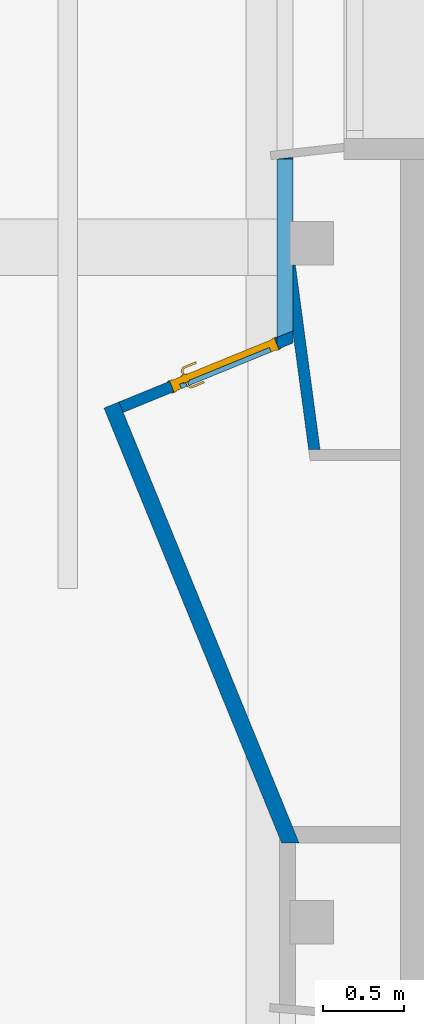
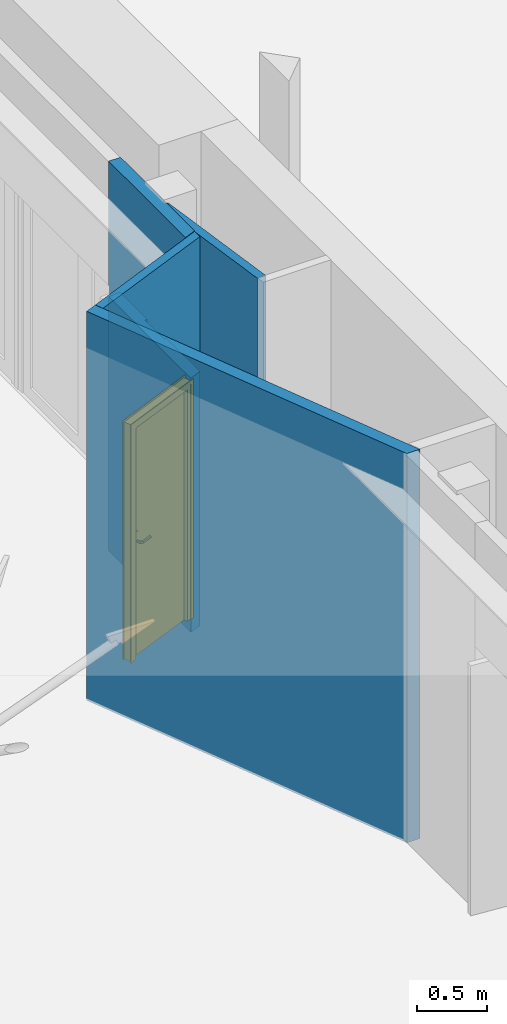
# One storey, part 36 of 65: 5 walls, 1 door, 2 openings.
"""IFC4 building model written with IfcOpenShell, lengths in metres."""

from ifc_helpers import new_model, entity, si_unit, converted_unit, derived_unit, direction, frame, origin, place, context, subcontext, project, spatial, indexed_curve, outline, extrude, polygons, source, transform, mapped, material, material_list, layer, layer_set, constituent, constituent_set, type_object, type_shapes, element, fill, save


model = new_model("IFC4")

# Units and contexts
model_context = context("Model", 3, precision=1e-05, world=origin(), true_north=direction((6.12303176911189e-17, 1.0)))
body_context = subcontext(model_context, "Body", "Model", "MODEL_VIEW")
ifc_project = project(units=[si_unit("LENGTHUNIT", "METRE"), si_unit("AREAUNIT", "SQUARE_METRE"), si_unit("VOLUMEUNIT", "CUBIC_METRE"), converted_unit("PLANEANGLEUNIT", "DEGREE", entity("IfcRatioMeasure", 0.0174532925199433), si_unit("PLANEANGLEUNIT", "RADIAN"), dimensions=[0, 0, 0, 0, 0, 0, 0]), si_unit("MASSUNIT", "GRAM", prefix="KILO"), derived_unit("MASSDENSITYUNIT", [(si_unit("MASSUNIT", "GRAM", prefix="KILO"), 1), (si_unit("LENGTHUNIT", "METRE"), -3)]), derived_unit("MOMENTOFINERTIAUNIT", [(si_unit("LENGTHUNIT", "METRE"), 4)]), si_unit("TIMEUNIT", "SECOND"), si_unit("FREQUENCYUNIT", "HERTZ"), si_unit("THERMODYNAMICTEMPERATUREUNIT", "DEGREE_CELSIUS"), derived_unit("THERMALTRANSMITTANCEUNIT", [(si_unit("MASSUNIT", "GRAM", prefix="KILO"), 1), (si_unit("THERMODYNAMICTEMPERATUREUNIT", "KELVIN"), -1), (si_unit("TIMEUNIT", "SECOND"), -3)]), derived_unit("VOLUMETRICFLOWRATEUNIT", [(si_unit("LENGTHUNIT", "METRE"), 3), (si_unit("TIMEUNIT", "SECOND"), -1)]), si_unit("ELECTRICCURRENTUNIT", "AMPERE"), si_unit("ELECTRICVOLTAGEUNIT", "VOLT"), si_unit("POWERUNIT", "WATT"), si_unit("FORCEUNIT", "NEWTON", prefix="KILO"), si_unit("ILLUMINANCEUNIT", "LUX"), si_unit("LUMINOUSFLUXUNIT", "LUMEN"), si_unit("LUMINOUSINTENSITYUNIT", "CANDELA"), derived_unit("USERDEFINED", [(si_unit("MASSUNIT", "GRAM", prefix="KILO"), -1), (si_unit("LENGTHUNIT", "METRE"), -2), (si_unit("TIMEUNIT", "SECOND"), 3), (si_unit("LUMINOUSFLUXUNIT", "LUMEN"), 1)]), derived_unit("LINEARVELOCITYUNIT", [(si_unit("LENGTHUNIT", "METRE"), 1), (si_unit("TIMEUNIT", "SECOND"), -1)]), si_unit("PRESSUREUNIT", "PASCAL"), derived_unit("USERDEFINED", [(si_unit("LENGTHUNIT", "METRE"), -2), (si_unit("MASSUNIT", "GRAM", prefix="KILO"), 1), (si_unit("TIMEUNIT", "SECOND"), -2)]), derived_unit("LINEARFORCEUNIT", [(si_unit("MASSUNIT", "GRAM", prefix="KILO"), 1), (si_unit("LENGTHUNIT", "METRE"), 1), (si_unit("TIMEUNIT", "SECOND"), -2), (si_unit("LENGTHUNIT", "METRE"), -1)]), derived_unit("PLANARFORCEUNIT", [(si_unit("MASSUNIT", "GRAM", prefix="KILO"), 1), (si_unit("LENGTHUNIT", "METRE"), 1), (si_unit("TIMEUNIT", "SECOND"), -2), (si_unit("LENGTHUNIT", "METRE"), -2)])], contexts=[model_context])

# Site, building, storey
site_placement = place(None, origin())
site = spatial("IfcSite", under=ifc_project, at=site_placement, Name="Default", CompositionType="ELEMENT")
building_placement = place(site_placement, origin())
building = spatial("IfcBuilding", under=site, at=building_placement, Name="HOTEL CONSULAIRE BOULOGNE SUR MER", CompositionType="ELEMENT")
storey_placement = place(building_placement, origin())
storey = spatial("IfcBuildingStorey", under=building, at=storey_placement, Name="Niveau 0", CompositionType="ELEMENT", Elevation=1.31981936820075e-13)

# Wall, opening, door
ifc_material_1 = material(Name="Mur par défaut", Category="Divers")
ifc_layer_1 = layer(ifc_material_1, 0.07, Name="Mur par défaut", Category="Divers")
ifc_layer_set_1 = layer_set([ifc_layer_1], Name="Mur de base:Int. Plâtre 70 mm")
wall_type_1 = type_object("IfcWallType", Name="Mur de base:Int. Plâtre 70 mm", PredefinedType="NOTDEFINED", material=ifc_layer_set_1)
wall_1_placement = place(storey_placement, frame((10.2970538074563, -20.8293160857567, -0.0200000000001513), z_axis=(0.0, 0.0, 1.0), x_axis=(0.925717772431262, 0.378215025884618, 0.0)))
wall_1 = element("IfcWall", 1, at=wall_1_placement, inside=storey, type_object=wall_type_1, material=ifc_layer_set_1, Name="Mur de base:Int. Plâtre 70 mm", ObjectType="Mur de base:Int. Plâtre 70 mm", PredefinedType="NOTDEFINED", context=body_context, shape_type="Tessellation", body=[
    polygons([(1.08286712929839e-15, -0.0350000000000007, -2.15727435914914e-16), (1.02814698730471, -0.0350000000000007, -2.15727435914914e-16), (1.02814698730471, -0.0350000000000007, 0.12), (0.338999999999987, -0.0350000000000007, 0.12), (0.33899999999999, -0.0349999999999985, 2.19500000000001), (1.02814698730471, -0.0350000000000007, 2.19500000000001), (1.02814698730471, -0.0350000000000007, 2.22615028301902), (1.13617127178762, -0.0349999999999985, 2.22615028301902), (1.13617127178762, -0.0349999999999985, 3.40652697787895), (1.08286712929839e-15, -0.0350000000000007, 3.40652697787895), (1.05674647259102, 0.0350000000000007, -2.15727435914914e-16), (-1.08286712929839e-15, 0.0350000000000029, -2.15727435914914e-16), (-1.08286712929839e-15, 0.0350000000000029, 3.40652697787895), (1.16477075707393, 0.0350000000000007, 3.40652697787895), (1.16477075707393, 0.0350000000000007, 2.22615028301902), (1.05674647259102, 0.0350000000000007, 2.22615028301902), (1.03899999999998, 0.0349999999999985, 0.12), (1.03899999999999, 0.0349999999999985, 2.19500000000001), (0.338999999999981, 0.0349999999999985, 2.19500000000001), (0.338999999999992, 0.0350000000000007, 0.12), (1.03899999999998, -0.00843620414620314, 0.12), (1.03899999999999, -0.00843620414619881, 2.19500000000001), (1.15582565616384, 0.013106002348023, 3.40652697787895)], [[[1, 2, 3, 4, 5, 6, 7, 8, 9, 10]], [[11, 12, 13, 14, 15, 16], [17, 18, 19, 20]], [[2, 1, 12, 11]], [[19, 18, 22, 6, 5]], [[8, 7, 16, 15]], [[12, 1, 10, 13]], [[18, 17, 21, 22]], [[19, 5, 4, 20]], [[20, 4, 3, 21, 17]], [[13, 10, 9, 23, 14]], [[16, 7, 6, 22, 21, 3, 2, 11]], [[9, 8, 15, 14, 23]]], closed=True),
])
opening_1_placement = place(wall_1_placement, frame((0.338999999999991, -0.0350000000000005, 0.120000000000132)))
opening_1 = element("IfcOpeningElement", 2, at=opening_1_placement, cuts=wall_1, Name="Int. Simple:PP (0.63m x 2.04m):1", ObjectType="Opening", PredefinedType="OPENING", context=body_context, shape_type="SweptSolid", body=[
    extrude(outline(indexed_curve([(0.0, 0.699999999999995), (0.0, 0.0), (2.07500000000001, 0.0), (2.07500000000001, 0.699999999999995), (0.0, 0.699999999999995)], self_intersect=False)), frame((0.0, 0.0, 0.0), z_axis=(0.0, 1.0, 0.0), x_axis=(0.0, 0.0, 1.0)), (0.0, 0.0, 1.0), 0.07),
])
ifc_material_2 = material(Name="Finition Peinture - Blanc satiné", Category="Peinture")
ifc_constituent_1 = constituent(ifc_material_2, Name="Finition Peinture - Blanc satiné", Category="Matériaux")
ifc_material_3 = material(Name="Bois - Panneau de porte", Category="Bois")
ifc_constituent_2 = constituent(ifc_material_3, Name="Bois - Panneau de porte", Category="Matériaux")
ifc_material_4 = material(Name="Bois - Cadre de porte", Category="Bois")
ifc_constituent_3 = constituent(ifc_material_4, Name="Bois - Cadre de porte", Category="Matériaux")
ifc_constituent_set = constituent_set(constituents=[ifc_constituent_1, ifc_constituent_2, ifc_constituent_3], Name="MaterialConstituentSet")
ifc_material_list = material_list([ifc_material_4, ifc_material_3, ifc_material_2, ifc_material_4])
door_type = type_object("IfcDoorType", Name="Int. Simple:PP (0.63m x 2.04m)", OperationType="NOTDEFINED", PredefinedType="DOOR", material=ifc_material_list)
shared_shape = source(origin(), body_context, "Body", "Tessellation", [
    polygons([(0.695000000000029, -0.00500000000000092, 0.870000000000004), (0.695000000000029, -0.00500000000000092, 1.08), (0.68535276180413, -0.00500000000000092, 1.08399601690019), (0.675000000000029, -0.00500000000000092, 1.08535898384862), (0.664647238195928, -0.00500000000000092, 1.08399601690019), (0.65500000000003, -0.00500000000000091, 1.08), (0.655000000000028, -0.00500000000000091, 0.870000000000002), (0.664647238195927, -0.00500000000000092, 0.866003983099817), (0.675000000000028, -0.00500000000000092, 0.86464101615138), (0.685352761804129, -0.00500000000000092, 0.866003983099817), (0.695000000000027, -9.22129039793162e-16, 0.870000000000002), (0.685352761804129, -9.17899090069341e-16, 0.866003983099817), (0.675000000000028, -9.13669140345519e-16, 0.86464101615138), (0.664647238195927, -9.09439190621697e-16, 0.866003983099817), (0.655000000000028, -9.05209240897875e-16, 0.870000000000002), (0.655000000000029, -9.05209240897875e-16, 1.08), (0.664647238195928, -9.09439190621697e-16, 1.08399601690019), (0.675000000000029, -9.13669140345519e-16, 1.08535898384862), (0.68535276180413, -9.17899090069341e-16, 1.08399601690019), (0.695000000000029, -9.22129039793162e-16, 1.08)], [[[1, 2, 3, 4, 5, 6, 7, 8, 9, 10]], [[20, 11, 12, 13, 14, 15, 16, 17, 18, 19]], [[10, 12, 11, 1]], [[9, 13, 12, 10]], [[8, 14, 13, 9]], [[8, 7, 15, 14]], [[15, 7, 6, 16]], [[5, 17, 16, 6]], [[4, 18, 17, 5]], [[3, 19, 18, 4]], [[3, 2, 20, 19]], [[11, 20, 2, 1]]], closed=True),
    polygons([(0.65500000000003, 0.0399999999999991, 1.08), (0.655000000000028, 0.0399999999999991, 0.870000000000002), (0.664647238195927, 0.0399999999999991, 0.866003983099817), (0.675000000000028, 0.0399999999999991, 0.86464101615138), (0.685352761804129, 0.0399999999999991, 0.866003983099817), (0.695000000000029, 0.0399999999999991, 0.870000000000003), (0.695000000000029, 0.0399999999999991, 1.08), (0.68535276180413, 0.0399999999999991, 1.08399601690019), (0.675000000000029, 0.0399999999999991, 1.08535898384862), (0.664647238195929, 0.0399999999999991, 1.08399601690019), (0.65500000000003, 0.0449999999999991, 1.08), (0.664647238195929, 0.0449999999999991, 1.08399601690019), (0.675000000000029, 0.0449999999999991, 1.08535898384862), (0.68535276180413, 0.0449999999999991, 1.08399601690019), (0.695000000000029, 0.0449999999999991, 1.08), (0.695000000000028, 0.0449999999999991, 0.870000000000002), (0.685352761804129, 0.0449999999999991, 0.866003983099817), (0.675000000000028, 0.0449999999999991, 0.86464101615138), (0.664647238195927, 0.0449999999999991, 0.866003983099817), (0.655000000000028, 0.0449999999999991, 0.870000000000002)], [[[6, 7, 8, 9, 10, 1, 2, 3, 4, 5]], [[13, 14, 15, 16, 17, 18, 19, 20, 11, 12]], [[10, 12, 11, 1]], [[9, 13, 12, 10]], [[8, 14, 13, 9]], [[8, 7, 15, 14]], [[16, 15, 7, 6]], [[5, 17, 16, 6]], [[4, 18, 17, 5]], [[3, 19, 18, 4]], [[3, 2, 20, 19]], [[20, 2, 1, 11]]], closed=True),
    polygons([(0.681000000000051, -0.00500000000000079, 1.00699999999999), (0.68100000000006, -0.00500000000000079, 0.992999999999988), (0.677025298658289, -0.00500000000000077, 0.99221955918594), (0.67297470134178, -0.00500000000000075, 0.992219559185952), (0.669000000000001, -0.00500000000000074, 0.993000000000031), (0.669000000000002, -0.00500000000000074, 1.007), (0.672974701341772, -0.00500000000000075, 1.00778044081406), (0.677025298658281, -0.00500000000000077, 1.00778044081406), (0.669000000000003, -0.0276803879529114, 1.007), (0.672974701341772, -0.0293267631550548, 1.00778044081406), (0.677025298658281, -0.0310045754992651, 1.00778044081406), (0.681000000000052, -0.0326509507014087, 1.007), (0.669000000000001, -0.0276803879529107, 0.993000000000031), (0.68100000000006, -0.0326509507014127, 0.992999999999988), (0.677025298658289, -0.0310045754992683, 0.99221955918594), (0.67297470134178, -0.029326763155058, 0.992219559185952), (0.657652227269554, -0.0390281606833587, 1.007), (0.659298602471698, -0.0430028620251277, 1.00778044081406), (0.660976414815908, -0.047053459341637, 1.00778044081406), (0.662622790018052, -0.0510281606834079, 1.007), (0.657652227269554, -0.0390281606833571, 0.993000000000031), (0.662622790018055, -0.0510281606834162, 0.992999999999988), (0.660976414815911, -0.0470534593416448, 0.99221955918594), (0.659298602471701, -0.0430028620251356, 0.992219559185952), (0.574981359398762, -0.0510281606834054, 1.007), (0.574981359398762, -0.0470534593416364, 1.00778044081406), (0.574981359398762, -0.0430028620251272, 1.00778044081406), (0.574981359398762, -0.0390281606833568, 1.00699999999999), (0.574981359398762, -0.0390281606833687, 0.993000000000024), (0.574981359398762, -0.0430028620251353, 0.992219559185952), (0.574981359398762, -0.0470534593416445, 0.99221955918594), (0.574981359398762, -0.0510281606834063, 0.992999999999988), (0.622692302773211, -0.0510281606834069, 1.007), (0.617139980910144, -0.0450281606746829, 1.0078786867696), (0.616316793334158, -0.0390281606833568, 1.007), (0.622692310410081, -0.0510281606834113, 0.992999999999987), (0.617139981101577, -0.0450281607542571, 0.992121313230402), (0.61631679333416, -0.0390281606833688, 0.993000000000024)], [[[7, 8, 1, 2, 3, 4, 5, 6]], [[17, 21, 38, 29, 28, 35]], [[1, 8, 11, 12]], [[8, 7, 10, 18, 19, 11]], [[7, 6, 9, 10]], [[13, 9, 6, 5]], [[25, 26, 27, 28, 29, 30, 31, 32]], [[4, 16, 13, 5]], [[4, 3, 15, 23, 24, 16]], [[2, 14, 15, 3]], [[12, 14, 2, 1]], [[12, 11, 19, 20]], [[10, 9, 17, 18]], [[21, 17, 9, 13]], [[13, 16, 24, 21]], [[15, 14, 22, 23]], [[20, 22, 14, 12]], [[34, 26, 33]], [[33, 26, 25]], [[33, 20, 19]], [[18, 35, 34]], [[35, 18, 17]], [[28, 27, 35]], [[34, 27, 26]], [[34, 35, 27]], [[34, 33, 19]], [[18, 34, 19]], [[37, 30, 38]], [[31, 37, 36]], [[24, 38, 21]], [[30, 29, 38]], [[31, 36, 32]], [[36, 23, 22]], [[37, 23, 36]], [[37, 24, 23]], [[37, 38, 24]], [[30, 37, 31]], [[22, 20, 33, 25, 32, 36]]], closed=True),
    polygons([(0.66900000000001, 0.0449999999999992, 0.993000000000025), (0.672974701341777, 0.0449999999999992, 0.992219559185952), (0.677025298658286, 0.0449999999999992, 0.99221955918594), (0.681000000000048, 0.0449999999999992, 0.992999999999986), (0.681000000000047, 0.0449999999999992, 1.007), (0.677025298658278, 0.0449999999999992, 1.00778044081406), (0.672974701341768, 0.0449999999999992, 1.00778044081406), (0.668999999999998, 0.0449999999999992, 1.007), (0.668999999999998, 0.0674852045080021, 1.007), (0.668999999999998, 0.0674852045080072, 0.993000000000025), (0.681000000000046, 0.0724557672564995, 1.007), (0.677025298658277, 0.0708093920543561, 1.00778044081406), (0.672974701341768, 0.0691315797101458, 1.00778044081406), (0.681000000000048, 0.0724557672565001, 0.992999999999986), (0.672974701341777, 0.0691315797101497, 0.992219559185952), (0.677025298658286, 0.0708093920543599, 0.99221955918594), (0.65751471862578, 0.0789704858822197, 1.007), (0.657514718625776, 0.0789704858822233, 0.993000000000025), (0.662485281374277, 0.0909704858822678, 1.007), (0.660838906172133, 0.0869957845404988, 1.00778044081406), (0.659161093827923, 0.0829451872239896, 1.00778044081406), (0.662485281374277, 0.0909704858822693, 0.992999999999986), (0.659161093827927, 0.0829451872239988, 0.992219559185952), (0.660838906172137, 0.0869957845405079, 0.99221955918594), (0.574954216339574, 0.0789704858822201, 0.993000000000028), (0.574954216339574, 0.0789704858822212, 1.007), (0.574954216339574, 0.0829451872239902, 1.00778044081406), (0.574954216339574, 0.0869957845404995, 1.00778044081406), (0.574954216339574, 0.0909704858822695, 1.007), (0.574954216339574, 0.0909704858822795, 0.992999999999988), (0.574954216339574, 0.0869957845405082, 0.99221955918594), (0.574954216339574, 0.082945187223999, 0.992219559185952), (0.62255479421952, 0.0909704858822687, 1.007), (0.617057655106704, 0.0849704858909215, 1.0078786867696), (0.616234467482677, 0.0789704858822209, 1.007), (0.622554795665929, 0.0909704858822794, 0.992999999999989), (0.617057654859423, 0.0849704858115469, 0.992121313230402), (0.616234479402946, 0.0789704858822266, 0.993000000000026)], [[[2, 3, 4, 5, 6, 7, 8, 1]], [[18, 17, 35, 26, 25, 38]], [[9, 10, 1, 8]], [[27, 28, 29, 30, 31, 32, 25, 26]], [[7, 13, 9, 8]], [[7, 6, 12, 20, 21, 13]], [[5, 11, 12, 6]], [[11, 5, 4, 14]], [[4, 3, 16, 14]], [[3, 2, 15, 23, 24, 16]], [[2, 1, 10, 15]], [[17, 18, 10, 9]], [[9, 13, 21, 17]], [[11, 19, 20, 12]], [[22, 19, 11, 14]], [[14, 16, 24, 22]], [[15, 10, 18, 23]], [[34, 27, 35]], [[28, 34, 33]], [[21, 35, 17]], [[27, 26, 35]], [[28, 33, 29]], [[33, 20, 19]], [[34, 20, 33]], [[34, 21, 20]], [[34, 35, 21]], [[27, 34, 28]], [[19, 22, 36, 30, 29, 33]], [[37, 31, 36]], [[36, 31, 30]], [[36, 22, 24]], [[23, 38, 37]], [[38, 23, 18]], [[25, 32, 38]], [[37, 32, 31]], [[37, 38, 32]], [[37, 36, 24]], [[23, 37, 24]]], closed=True),
    polygons([(0.735000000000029, 0.0400000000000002, 2.04), (0.735000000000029, 0.0400000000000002, 0.0), (0.105000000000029, 0.0400000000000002, 0.0), (0.105000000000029, 0.0400000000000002, 2.04), (0.735000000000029, 1.77657888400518e-16, 2.04), (0.105000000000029, 1.77657888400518e-16, 2.04), (0.105000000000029, 1.77657888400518e-16, 0.0), (0.735000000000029, 1.77657888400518e-16, 0.0)], [[[4, 1, 2, 3]], [[5, 6, 7, 8]], [[5, 1, 4, 6]], [[6, 4, 3, 7]], [[7, 3, 2, 8]], [[8, 2, 1, 5]]], closed=True),
    polygons([(0.770000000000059, -4.22994972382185e-18, 0.0), (0.735000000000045, -4.22994972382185e-18, 0.0), (0.735000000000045, 0.04, 0.0), (0.720000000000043, 0.04, 0.0), (0.720000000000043, 0.0699999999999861, 0.0), (0.770000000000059, 0.0699999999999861, 0.0), (0.770000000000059, 0.0699999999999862, 2.07500000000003), (0.770000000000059, -4.22994972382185e-18, 2.07500000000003), (0.720000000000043, 0.0699999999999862, 2.02500000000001), (0.120000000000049, 0.0699999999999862, 2.02500000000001), (0.120000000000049, 0.0699999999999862, -5.39486020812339e-24), (0.0700000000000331, 0.0699999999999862, 3.49936692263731e-24), (0.0700000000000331, 0.0699999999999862, 2.07500000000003), (0.720000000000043, 0.04, 2.02500000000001), (0.735000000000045, 0.04, 2.04000000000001), (0.105000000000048, 0.04, 2.04000000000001), (0.105000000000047, 0.04, -2.56980361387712e-24), (0.120000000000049, 0.04, -3.88458692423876e-24), (0.120000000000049, 0.04, 2.02500000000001), (0.735000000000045, -4.22994972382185e-18, 2.04000000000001), (0.0700000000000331, -4.22994972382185e-18, 2.07500000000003), (0.0700000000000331, -4.22994972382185e-18, -4.03399441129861e-24), (0.105000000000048, -4.22994972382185e-18, 0.0), (0.105000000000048, -4.22994972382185e-18, 2.04000000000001)], [[[4, 5, 6, 1, 2, 3]], [[17, 23, 22, 12, 11, 18]], [[19, 10, 9, 14]], [[24, 16, 15, 20]], [[7, 8, 1, 6]], [[11, 10, 19, 18]], [[17, 16, 24, 23]], [[9, 10, 11, 12, 13, 7, 6, 5]], [[9, 5, 4, 14]], [[15, 3, 2, 20]], [[12, 22, 21, 13]], [[19, 14, 4, 3, 15, 16, 17, 18]], [[24, 20, 2, 1, 8, 21, 22, 23]], [[21, 8, 7, 13]]], closed=True),
    polygons([(0.755000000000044, 0.0699999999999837, 0.0), (0.755000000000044, 0.0749999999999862, 0.0), (0.785000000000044, 0.0749999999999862, 0.0), (0.785000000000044, 0.0699999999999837, 0.0), (0.785000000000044, 0.0699999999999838, 2.09000000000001), (0.0550000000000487, 0.0699999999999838, 2.09000000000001), (0.0550000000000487, 0.0699999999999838, -1.84075420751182e-24), (0.0850000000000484, 0.0699999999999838, -2.74154910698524e-24), (0.0850000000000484, 0.0699999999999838, 2.06000000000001), (0.755000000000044, 0.0699999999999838, 2.06000000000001), (0.785000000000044, 0.0749999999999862, 2.09000000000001), (0.755000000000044, 0.0749999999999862, 2.06000000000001), (0.0850000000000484, 0.0749999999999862, 2.06000000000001), (0.0850000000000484, 0.0749999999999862, -4.03399441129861e-24), (0.0550000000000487, 0.0749999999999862, 0.0), (0.0550000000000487, 0.0749999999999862, 2.09000000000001)], [[[2, 3, 4, 1]], [[7, 15, 14, 8]], [[9, 13, 12, 10]], [[9, 10, 1, 4, 5, 6, 7, 8]], [[11, 5, 4, 3]], [[8, 14, 13, 9]], [[12, 13, 14, 15, 16, 11, 3, 2]], [[10, 12, 2, 1]], [[15, 7, 6, 16]], [[16, 6, 5, 11]]], closed=True),
    polygons([(0.755000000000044, -0.005, 0.0), (0.755000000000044, -8.33300095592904e-16, 0.0), (0.785000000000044, -8.33300095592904e-16, 0.0), (0.785000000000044, -0.005, 0.0), (0.0850000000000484, -0.005, -5.41433564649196e-16), (0.0550000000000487, -0.005, -5.41433564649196e-16), (0.0550000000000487, -8.33300095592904e-16, -5.41433564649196e-16), (0.0850000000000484, -8.33300095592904e-16, -5.41433564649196e-16), (0.785000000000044, -0.005, 2.09000000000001), (0.0550000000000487, -0.005, 2.09000000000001), (0.0850000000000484, -0.005, 2.06000000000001), (0.755000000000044, -0.005, 2.06000000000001), (0.785000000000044, -8.33300095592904e-16, 2.09000000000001), (0.755000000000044, -8.33300095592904e-16, 2.06000000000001), (0.0850000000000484, -8.33300095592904e-16, 2.06000000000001), (0.0550000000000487, -8.33300095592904e-16, 2.09000000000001)], [[[2, 3, 4, 1]], [[6, 7, 8, 5]], [[11, 15, 14, 12]], [[11, 12, 1, 4, 9, 10, 6, 5]], [[9, 4, 3, 13]], [[5, 8, 15, 11]], [[14, 15, 8, 7, 16, 13, 3, 2]], [[14, 2, 1, 12]], [[6, 10, 16, 7]], [[10, 9, 13, 16]]], closed=True),
])
type_shapes(door_type, [shared_shape])
door_placement = place(opening_1_placement, frame((0.770000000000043, 0.0700000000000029, 0.0), z_axis=(0.0, 0.0, 1.0), x_axis=(-1.0, 0.0, 0.0)))
door = element("IfcDoor", 3, at=door_placement, inside=storey, type_object=door_type, material=ifc_constituent_set, Name="Int. Simple:PP (0.63m x 2.04m)", ObjectType="Int. Simple:PP (0.63m x 2.04m)", OperationType="NOTDEFINED", OverallHeight=2.07500000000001, OverallWidth=0.699999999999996, PredefinedType="DOOR", context=body_context, shape_type="MappedRepresentation", body=[
    mapped(shared_shape, transform((0.0, 0.0, 0.0), scale=1.0)),
])
fill(opening_1, door)

# Wall
wall_2_placement = place(storey_placement, frame((11.4930362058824, -21.0941482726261, -0.0200000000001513), z_axis=(0.0, 0.0, 1.0), x_axis=(-0.132767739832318, 0.991147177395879, 0.0)))
element("IfcWall", 4, at=wall_2_placement, inside=storey, type_object=wall_type_1, material=ifc_layer_set_1, Name="Mur de base:Int. Plâtre 70 mm", ObjectType="Mur de base:Int. Plâtre 70 mm", PredefinedType="NOTDEFINED", context=body_context, shape_type="Tessellation", body=[
    polygons([(-4.33146851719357e-15, -0.0349999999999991, -2.15727435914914e-16), (1.14876137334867, -0.0349999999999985, -2.15727435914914e-16), (1.14876137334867, -0.0349999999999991, 3.40652697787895), (-4.33146851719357e-15, -0.0349999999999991, 3.40652697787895), (0.725182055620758, 0.0350000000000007, -2.15727435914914e-16), (0.00937675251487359, 0.0350000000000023, -2.15727435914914e-16), (0.00937675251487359, 0.0350000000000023, 3.40652697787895), (0.725182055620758, 0.0350000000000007, 3.40652697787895), (1.15050629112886, -0.0219737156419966, -2.15727435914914e-16), (0.748623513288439, 0.0318599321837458, 3.40652697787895), (1.15050629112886, -0.0219737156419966, 3.40652697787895), (1.15050629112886, -0.0219737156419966, 2.22615028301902)], [[[4, 1, 2, 3]], [[8, 5, 6, 7]], [[2, 1, 6, 5, 9]], [[6, 1, 4, 7]], [[12, 9, 5, 8, 10, 11]], [[12, 11, 3, 2, 9]], [[10, 8, 7, 4, 3, 11]]], closed=True),
])

# Wall, opening
ifc_layer_2 = layer(ifc_material_1, 0.1, Name="Mur par défaut", Category="Divers")
ifc_layer_set_2 = layer_set([ifc_layer_2], Name="Mur de base:Générique - Int. 100 mm")
wall_type_2 = type_object("IfcWallType", Name="Mur de base:Générique - Int. 100 mm", PredefinedType="NOTDEFINED", material=ifc_layer_set_2)
wall_3_placement = place(storey_placement, frame((11.3120652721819, -19.2825186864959, -0.0200000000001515), z_axis=(0.0, 0.0, 1.0), x_axis=(0.0, -1.0, 0.0)))
wall_3 = element("IfcWall", 5, at=wall_3_placement, inside=storey, type_object=wall_type_2, material=ifc_layer_set_2, Name="Mur de base:Générique - Int. 100 mm", ObjectType="Mur de base:Générique - Int. 100 mm", PredefinedType="NOTDEFINED", context=body_context, shape_type="Tessellation", body=[
    polygons([(0.0, 0.0499999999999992, 5.4989346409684e-17), (0.0, 0.0499999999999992, 2.22615028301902), (0.0110852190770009, 0.0499999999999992, 2.22615028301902), (0.398391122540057, 0.05, 2.22615028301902), (0.398391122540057, 0.05, 5.4989346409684e-17), (0.0110852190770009, -0.0499999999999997, 5.4989346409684e-17), (1.11471988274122, -0.0499999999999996, 5.4989346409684e-17), (1.19033688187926, -0.0499999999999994, 5.4989346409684e-17), (1.19033688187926, -0.0499999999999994, 0.12), (1.16164153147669, -0.0499999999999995, 0.12), (1.16164153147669, -0.0499999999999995, 2.19500000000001), (1.19033688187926, -0.0499999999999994, 2.19500000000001), (1.19033688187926, -0.0499999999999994, 2.22615028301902), (1.11471988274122, -0.0499999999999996, 2.22615028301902), (0.0110852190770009, -0.0499999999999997, 2.22615028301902), (1.14948047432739, 0.0499999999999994, 2.22615028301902), (1.14948047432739, 0.0499999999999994, 5.4989346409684e-17), (1.09751430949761, 0.0499999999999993, 5.4989346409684e-17), (0.668391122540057, 0.0499999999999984, 5.4989346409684e-17), (0.668391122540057, 0.0499999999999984, 2.22615028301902), (1.07386347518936, 0.0499999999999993, 2.22615028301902), (0.398391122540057, 0.0295730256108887, 5.4989346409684e-17), (0.668391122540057, 0.0295730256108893, 5.4989346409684e-17), (0.668391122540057, 0.0295730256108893, 2.22615028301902), (0.398391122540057, 0.0295730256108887, 2.22615028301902), (1.18623210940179, -0.0399531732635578, 2.19500000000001), (1.18623210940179, -0.0399531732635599, 0.12)], [[[4, 5, 1, 2, 3]], [[16, 17, 18, 19, 20, 21]], [[22, 25, 24, 23]], [[6, 7, 8, 9, 10, 11, 12, 13, 14, 15]], [[6, 1, 5, 22, 23, 19, 18, 17, 8, 7]], [[11, 26, 12]], [[24, 25, 4, 3, 2, 15, 14, 13, 16, 21, 20]], [[10, 9, 27]], [[1, 6, 15, 2]], [[9, 8, 17, 16, 13, 12, 26, 27]], [[10, 27, 26, 11]], [[23, 24, 20, 19]], [[22, 5, 4, 25]]], closed=True),
])
opening_2_placement = place(wall_3_placement, frame((1.45098262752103, -0.714430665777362, 0.12)))
element("IfcOpeningElement", 6, at=opening_2_placement, cuts=wall_3, Name="Mur de base:Générique - Int. 100 mm", ObjectType="Opening", PredefinedType="OPENING", context=body_context, shape_type="SweptSolid", body=[
    extrude(outline(indexed_curve([(-0.0349999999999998, -1.03750000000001), (0.0349999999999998, -1.03750000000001), (0.0349999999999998, 1.03750000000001), (-0.0349999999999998, 1.03750000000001), (-0.0349999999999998, -1.03750000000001)], self_intersect=False)), frame((-0.032400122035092, 0.0132375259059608, 1.03750000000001), z_axis=(-0.378215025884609, 0.925717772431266, 0.0), x_axis=(-0.925717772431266, -0.378215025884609, 0.0)), (0.0, 0.0, 1.0), 0.699999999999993),
])

# Walls
wall_4_placement = place(storey_placement, frame((10.2375303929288, -20.8158267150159, -0.0200000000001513), z_axis=(0.0, 0.0, 1.0), x_axis=(0.37821502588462, -0.925717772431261, 0.0)))
element("IfcWall", 7, at=wall_4_placement, inside=storey, type_object=wall_type_2, material=ifc_layer_set_2, Name="Mur de base:Générique - Int. 100 mm", ObjectType="Mur de base:Générique - Int. 100 mm", PredefinedType="NOTDEFINED", context=body_context, shape_type="Tessellation", body=[
    polygons([(4.33146851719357e-15, -0.0499999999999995, -2.15727435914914e-16), (2.87073863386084, -0.0500000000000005, -2.15727435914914e-16), (2.90520089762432, -0.0499999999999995, -2.15727435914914e-16), (2.90520089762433, -0.0499999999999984, 3.40652697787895), (2.87073863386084, -0.0500000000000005, 3.40652697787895), (4.33146851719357e-15, -0.0499999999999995, 3.40652697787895), (2.94605730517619, 0.0499999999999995, -2.15727435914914e-16), (2.83803302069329, 0.0500000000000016, -2.15727435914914e-16), (0.0700000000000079, 0.0500000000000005, -2.15727435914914e-16), (2.16573425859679e-15, 0.0500000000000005, -2.15727435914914e-16), (6.49720277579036e-15, 0.0499999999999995, 3.40652697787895), (0.0700000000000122, 0.0499999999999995, 3.40652697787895), (2.94605730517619, 0.0499999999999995, 3.40652697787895), (2.93809269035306, 0.0305058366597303, -2.15727435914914e-16), (2.93809269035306, 0.0305058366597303, 3.40652697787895)], [[[6, 1, 2, 3, 4, 5]], [[13, 7, 8, 9, 10, 11, 12]], [[14, 3, 2, 1, 10, 9, 8, 7]], [[11, 10, 1, 6]], [[4, 3, 14, 7, 13, 15]], [[6, 5, 4, 15, 13, 12, 11]]], closed=True),
])
wall_5_placement = place(storey_placement, frame((11.3120652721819, -19.2936039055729, 2.20615028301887), z_axis=(0.0, 0.0, 1.0), x_axis=(0.0, -1.0, 0.0)))
element("IfcWall", 8, at=wall_5_placement, inside=storey, type_object=wall_type_2, material=ifc_layer_set_2, Name="Mur de base:Générique - Int. 100 mm", ObjectType="Mur de base:Générique - Int. 100 mm", PredefinedType="NOTDEFINED", context=body_context, shape_type="Tessellation", body=[
    polygons([(1.10363466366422, -0.0499999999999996, 1.18497669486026), (0.0, -0.0499999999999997, 1.18497669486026), (0.0, -0.0499999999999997, 1.18037669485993), (0.0, -0.0499999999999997, 0.100000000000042), (1.10363466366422, -0.0499999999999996, 0.100000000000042), (1.06277825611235, 0.0499999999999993, 0.0), (0.657305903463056, 0.0499999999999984, 0.0), (0.387305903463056, 0.05, 0.0), (0.0, 0.0499999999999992, 0.0), (0.0, 0.0499999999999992, 1.18497669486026), (1.06277825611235, 0.0499999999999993, 1.18497669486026), (1.06277825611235, 0.0499999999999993, 1.18037669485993), (1.1001411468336, -0.0414492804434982, 0.0), (0.0, -0.0414492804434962, 0.0), (0.0, -0.0414492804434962, 0.100000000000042), (1.1001411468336, -0.041449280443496, 0.100000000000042)], [[[3, 4, 5, 1, 2]], [[15, 14, 13, 16]], [[12, 6, 7, 8, 9, 10, 11]], [[13, 14, 9, 8, 7, 6]], [[16, 5, 4, 15]], [[2, 1, 11, 10]], [[3, 2, 10, 9, 14, 15, 4]], [[16, 13, 6, 12, 11, 1, 5]]], closed=True),
])

save(model, "model.ifc")
